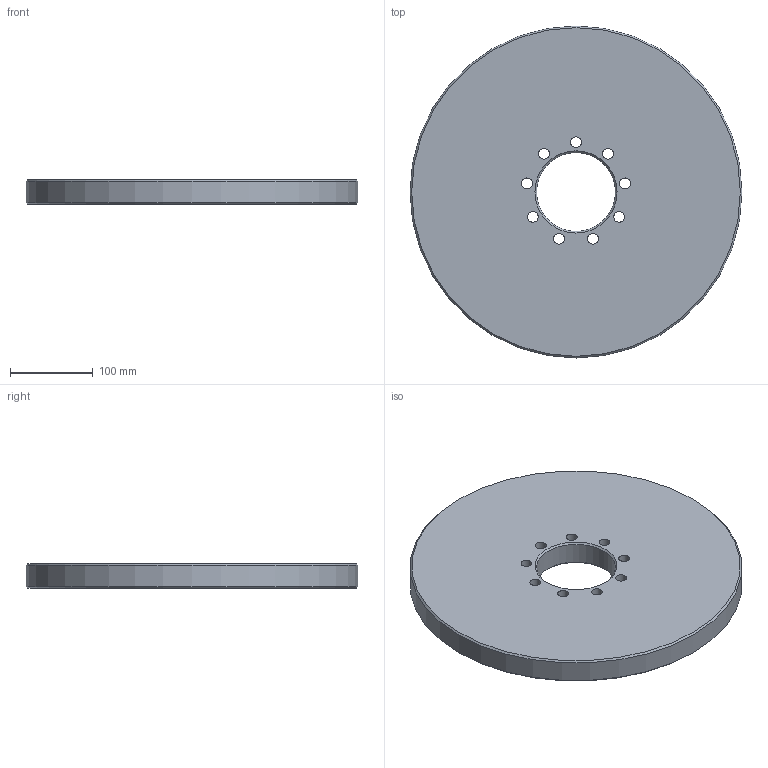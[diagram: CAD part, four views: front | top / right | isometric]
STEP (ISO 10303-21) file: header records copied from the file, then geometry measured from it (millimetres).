
FILE_DESCRIPTION(/* description */ (''),/* implementation_level */ '2;1');
FILE_NAME(/* name */ 'C:\Users\vlakrc01\Desktop\COUPLINGS\DISC\DISC 30 STEP\46413.stp',/* time_stamp */ '2017-03-15T14:28:00+01:00',/* author */ ('vlakrc01'),/* organization */ ('Hillmar Industries Ltd.'),/* preprocessor_version */ 'ST-DEVELOPER v16.1',/* originating_system */ 'Autodesk Inventor 2016',/* authorisation */ '');
FILE_SCHEMA (('AUTOMOTIVE_DESIGN { 1 0 10303 214 3 1 1 }'));
Length unit declared in the file: millimetre
Products named in the file (1): 46413
Bounding box: 400 x 400 x 30 mm (x, y, z)
Volume: 3515206.6 mm3; surface area: 288797.6 mm2
Topology: 1 solids, 1 shells, 17 faces, 50 edges, 35 vertices
Faces by surface type: cylinder 11, cone 4, plane 2
Full cylindrical faces by diameter (mm): 13 x9, 95 x1, 400 x1
Entity records: 498 total; most frequent: DIRECTION 88, CARTESIAN_POINT 70, EDGE_LOOP 52, ORIENTED_EDGE 52, AXIS2_PLACEMENT_3D 44, FACE_BOUND 35, CIRCLE 26, VERTEX_POINT 26
